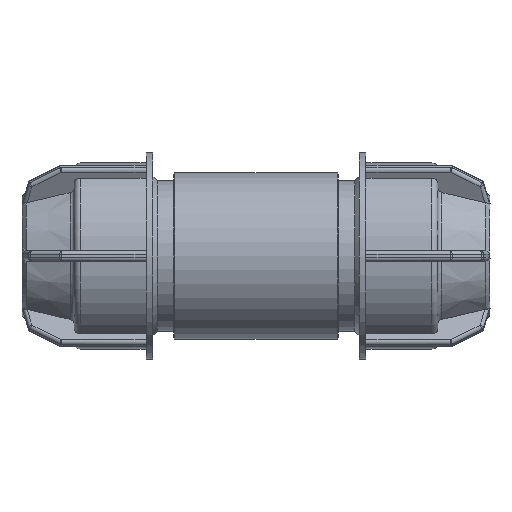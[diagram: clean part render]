
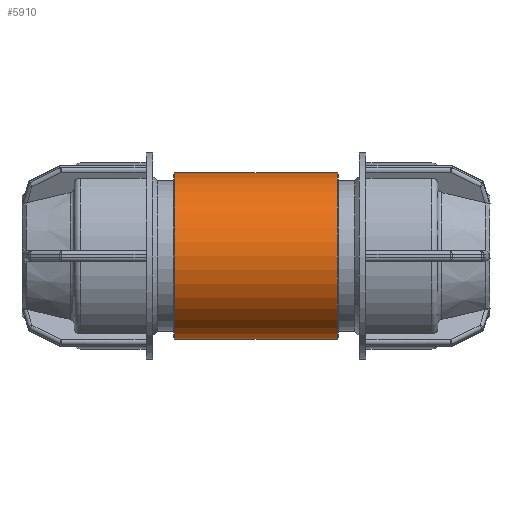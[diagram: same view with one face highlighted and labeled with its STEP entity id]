
A CAD part, front view. The second image highlights one B-rep face of the part: STEP entity #5910.
In plain terms, the highlighted cylindrical face has radius 22.88 mm (diameter 45.76 mm), a full revolution.
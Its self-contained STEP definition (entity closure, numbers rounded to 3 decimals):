
#837=B_SPLINE_CURVE_WITH_KNOTS('',3,(#8988,#8989,#8990,#8991,#8992,#8993,
#8994,#8995,#8996,#8997,#8998,#8999,#9000,#9001,#9002,#9003,#9004,#9005,
#9006,#9007,#9008,#9009,#9010,#9011,#9012,#9013,#9014,#9015,#9016,#9017,
#9018,#9019,#9020,#9021),.UNSPECIFIED.,.T.,.F.,(4,2,2,2,2,2,2,2,2,2,2,2,
2,2,2,2,4),(0.,0.417,0.833,1.249,1.665,
2.081,2.496,2.913,3.33,3.746,
4.163,4.579,4.995,5.41,5.826,
6.243,6.659),.UNSPECIFIED.);
#1019=CYLINDRICAL_SURFACE('',#6329,22.88);
#1339=FACE_BOUND('',#1800,.T.);
#1340=FACE_BOUND('',#1801,.T.);
#1383=FACE_OUTER_BOUND('',#1799,.T.);
#1799=EDGE_LOOP('',(#4064));
#1800=EDGE_LOOP('',(#4065));
#1801=EDGE_LOOP('',(#4066));
#2254=CIRCLE('',#6326,22.88);
#2256=CIRCLE('',#6330,22.88);
#2603=VERTEX_POINT('',#8979);
#2605=VERTEX_POINT('',#8985);
#2606=VERTEX_POINT('',#8987);
#3146=EDGE_CURVE('',#2603,#2603,#2254,.T.);
#3148=EDGE_CURVE('',#2605,#2605,#2256,.T.);
#3149=EDGE_CURVE('',#2606,#2606,#837,.T.);
#4064=ORIENTED_EDGE('',*,*,#3148,.F.);
#4065=ORIENTED_EDGE('',*,*,#3149,.F.);
#4066=ORIENTED_EDGE('',*,*,#3146,.F.);
#5910=ADVANCED_FACE('',(#1383,#1339,#1340),#1019,.T.);
#6326=AXIS2_PLACEMENT_3D('',#8980,#7093,#7094);
#6329=AXIS2_PLACEMENT_3D('',#8984,#7099,#7100);
#6330=AXIS2_PLACEMENT_3D('',#8986,#7101,#7102);
#7093=DIRECTION('center_axis',(-1.,0.,0.));
#7094=DIRECTION('ref_axis',(0.,-1.,0.));
#7099=DIRECTION('center_axis',(1.,0.,0.));
#7100=DIRECTION('ref_axis',(0.,1.,0.));
#7101=DIRECTION('center_axis',(1.,0.,0.));
#7102=DIRECTION('ref_axis',(0.,-1.,0.));
#8979=CARTESIAN_POINT('',(-22.38,22.88,0.));
#8980=CARTESIAN_POINT('Origin',(-22.38,0.,0.));
#8984=CARTESIAN_POINT('Origin',(11.35,0.,0.));
#8985=CARTESIAN_POINT('',(22.38,22.88,0.));
#8986=CARTESIAN_POINT('Origin',(22.38,0.,0.));
#8987=CARTESIAN_POINT('',(0.,20.142,-10.853));
#8988=CARTESIAN_POINT('Ctrl Pts',(0.,20.142,
10.853));
#8989=CARTESIAN_POINT('Ctrl Pts',(1.389,20.142,10.853));
#8990=CARTESIAN_POINT('Ctrl Pts',(2.851,20.301,10.571));
#8991=CARTESIAN_POINT('Ctrl Pts',(5.516,20.843,9.457));
#8992=CARTESIAN_POINT('Ctrl Pts',(6.722,21.216,8.626));
#8993=CARTESIAN_POINT('Ctrl Pts',(8.624,21.893,6.724));
#8994=CARTESIAN_POINT('Ctrl Pts',(9.456,22.246,5.518));
#8995=CARTESIAN_POINT('Ctrl Pts',(10.571,22.742,2.85));
#8996=CARTESIAN_POINT('Ctrl Pts',(10.853,22.88,1.386));
#8997=CARTESIAN_POINT('Ctrl Pts',(10.853,22.88,-1.386));
#8998=CARTESIAN_POINT('Ctrl Pts',(10.571,22.742,-2.85));
#8999=CARTESIAN_POINT('Ctrl Pts',(9.456,22.246,-5.518));
#9000=CARTESIAN_POINT('Ctrl Pts',(8.624,21.893,-6.724));
#9001=CARTESIAN_POINT('Ctrl Pts',(6.722,21.216,-8.626));
#9002=CARTESIAN_POINT('Ctrl Pts',(5.516,20.843,-9.457));
#9003=CARTESIAN_POINT('Ctrl Pts',(2.851,20.301,-10.571));
#9004=CARTESIAN_POINT('Ctrl Pts',(1.389,20.142,-10.853));
#9005=CARTESIAN_POINT('Ctrl Pts',(-1.389,20.142,-10.853));
#9006=CARTESIAN_POINT('Ctrl Pts',(-2.851,20.301,-10.571));
#9007=CARTESIAN_POINT('Ctrl Pts',(-5.516,20.843,-9.457));
#9008=CARTESIAN_POINT('Ctrl Pts',(-6.722,21.216,-8.626));
#9009=CARTESIAN_POINT('Ctrl Pts',(-8.624,21.893,-6.724));
#9010=CARTESIAN_POINT('Ctrl Pts',(-9.456,22.246,-5.518));
#9011=CARTESIAN_POINT('Ctrl Pts',(-10.571,22.742,-2.85));
#9012=CARTESIAN_POINT('Ctrl Pts',(-10.853,22.88,-1.386));
#9013=CARTESIAN_POINT('Ctrl Pts',(-10.853,22.88,1.386));
#9014=CARTESIAN_POINT('Ctrl Pts',(-10.571,22.742,2.85));
#9015=CARTESIAN_POINT('Ctrl Pts',(-9.456,22.246,5.518));
#9016=CARTESIAN_POINT('Ctrl Pts',(-8.624,21.893,6.724));
#9017=CARTESIAN_POINT('Ctrl Pts',(-6.722,21.216,8.626));
#9018=CARTESIAN_POINT('Ctrl Pts',(-5.516,20.843,9.457));
#9019=CARTESIAN_POINT('Ctrl Pts',(-2.851,20.301,10.571));
#9020=CARTESIAN_POINT('Ctrl Pts',(-1.389,20.142,10.853));
#9021=CARTESIAN_POINT('Ctrl Pts',(0.,20.142,10.853));
